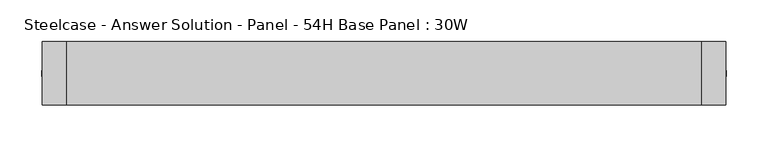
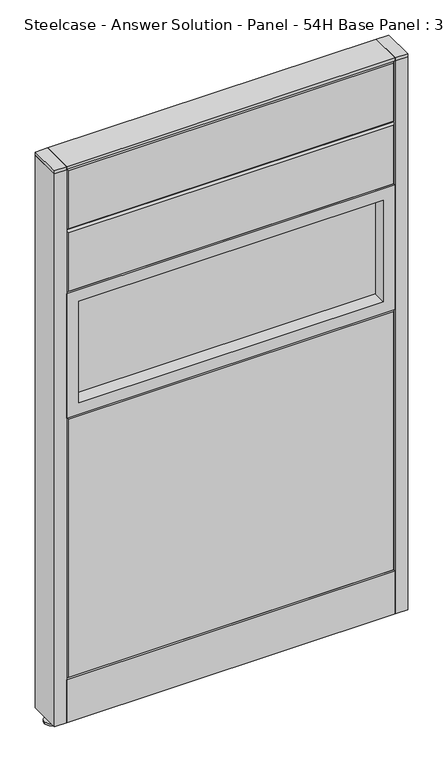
"""IFC4 building model written with IfcOpenShell, lengths in millimetres: furniture geometry, Steelcase - Answer Solution - Panel - 54H Base Panel : 30W."""

import ifcopenshell
import ifcopenshell.guid

model = None  # the IFC model being written
_history = None  # IfcOwnerHistory: only IFC2X3 demands one
_inside = {}  # id of a spatial element -> (the spatial element, [elements in it])
_under = {}  # id of a project, library or spatial element -> (it, [spatial elements below it])
_declared = {}  # id of a project -> (the project, [libraries it declares])
_typed = {}  # id of a type object -> (the type object, [elements of that type])
_made_of = {}  # id of a material, layer set ... -> (it, [elements and type objects made of it])


def new_model(schema):
    """Start an empty IFC model of exactly this schema.

    Asked for "IFC4X3", IfcOpenShell would pick the latest addendum, in which some entities
    have other attributes; the version numbers below select the first issue.
    IFC2X3 requires an IfcOwnerHistory on every rooted entity: one is made here for all.
    """
    global model, _history
    if schema == "IFC4X3":
        model = ifcopenshell.file(schema_version=(4, 3, 0, 0))
    else:
        model = ifcopenshell.file(schema=schema)
    _inside.clear()
    _under.clear()
    _declared.clear()
    _typed.clear()
    _made_of.clear()
    _history = None
    if model.schema == "IFC2X3":
        org = make("IfcOrganization", Name="unknown")
        user = make(
            "IfcPersonAndOrganization",
            ThePerson=make("IfcPerson", FamilyName="unknown"),
            TheOrganization=org,
        )
        app = make(
            "IfcApplication",
            ApplicationDeveloper=org,
            Version="unknown",
            ApplicationFullName="unknown",
            ApplicationIdentifier="unknown",
        )
        _history = make(
            "IfcOwnerHistory",
            OwningUser=user,
            OwningApplication=app,
            ChangeAction="ADDED",
            CreationDate=0,
        )
    return model


def make(cls, **values):
    """One entity of the class cls with the attributes given. An attribute that is None is left unset."""
    return model.create_entity(
        cls, **{name: value for name, value in values.items() if value is not None}
    )


def rooted(cls, **values):
    """An entity with a GlobalId (a new one), such as an element, a storey or a relation."""
    return make(cls, GlobalId=ifcopenshell.guid.new(), OwnerHistory=_history, **values)


def si_unit(unit_type, name, prefix=None):
    """IfcSIUnit, for example si_unit("LENGTHUNIT", "METRE", prefix="MILLI")."""
    return make("IfcSIUnit", UnitType=unit_type, Prefix=prefix, Name=name)


def assignment(units):
    """IfcUnitAssignment: the units of a project."""
    return None if units is None else make("IfcUnitAssignment", Units=units)


def point(xyz):
    """IfcCartesianPoint."""
    return None if xyz is None else make("IfcCartesianPoint", Coordinates=xyz)


def direction(xyz):
    """IfcDirection."""
    return None if xyz is None else make("IfcDirection", DirectionRatios=xyz)


def frame(location, z_axis=None, x_axis=None):
    """IfcAxis2Placement3D, a coordinate frame: its origin and axes. An axis left out is left unset."""
    return make(
        "IfcAxis2Placement3D",
        Location=point(location),
        Axis=direction(z_axis),
        RefDirection=direction(x_axis),
    )


def frame_2d(location, x_axis=None):
    """IfcAxis2Placement2D, a coordinate frame in the plane: its origin and x axis."""
    return make(
        "IfcAxis2Placement2D", Location=point(location), RefDirection=direction(x_axis)
    )


def origin():
    """The frame at (0, 0, 0) with its axes left unset."""
    return frame((0.0, 0.0, 0.0))


def place(relative_to, where):
    """IfcLocalPlacement: puts the frame where relative to a parent placement (None: the world)."""
    return make(
        "IfcLocalPlacement", PlacementRelTo=relative_to, RelativePlacement=where
    )


def context(
    kind, dimensions, precision=None, world=None, true_north=None, identifier=None
):
    """IfcGeometricRepresentationContext, for example the 3D "Model" context."""
    return make(
        "IfcGeometricRepresentationContext",
        ContextIdentifier=identifier,
        ContextType=kind,
        CoordinateSpaceDimension=dimensions,
        Precision=precision,
        WorldCoordinateSystem=world,
        TrueNorth=true_north,
    )


def project(units=None, contexts=None):
    """IfcProject with its units and contexts."""
    return rooted(
        "IfcProject",
        Name="project",
        RepresentationContexts=contexts,
        UnitsInContext=assignment(units),
    )


def spatial(cls, under=None, at=None, **own):
    """A site, building, storey or space (cls), placed at a placement, below another one or the project."""
    s = rooted(cls, ObjectPlacement=at, **own)
    if under is not None:
        _under.setdefault(under.id(), (under, []))[1].append(s)
    return s


def polyline(points):
    """IfcPolyline through the points."""
    return make("IfcPolyline", Points=[point(p) for p in points])


def circle_curve(where, radius):
    """IfcCircle in the frame where."""
    return make("IfcCircle", Position=where, Radius=radius)


def trimmed(basis, trim1, trim2, sense, master):
    """IfcTrimmedCurve: the piece of a basis curve between two trims."""
    return make(
        "IfcTrimmedCurve",
        BasisCurve=basis,
        Trim1=trim1,
        Trim2=trim2,
        SenseAgreement=sense,
        MasterRepresentation=master,
    )


def segment(curve, same_sense, transition):
    """IfcCompositeCurveSegment."""
    return make(
        "IfcCompositeCurveSegment",
        Transition=transition,
        SameSense=same_sense,
        ParentCurve=curve,
    )


def composite_curve(segments, self_intersect=None):
    """IfcCompositeCurve: segments joined end to end."""
    return make("IfcCompositeCurve", Segments=segments, SelfIntersect=self_intersect)


def outline(outer, holes=None, kind="AREA"):
    """IfcArbitraryClosedProfileDef: a profile drawn as a closed curve; with holes, ...WithVoids."""
    if holes is None:
        return make("IfcArbitraryClosedProfileDef", ProfileType=kind, OuterCurve=outer)
    return make(
        "IfcArbitraryProfileDefWithVoids",
        ProfileType=kind,
        OuterCurve=outer,
        InnerCurves=holes,
    )


def extrude(swept, where, along, depth):
    """IfcExtrudedAreaSolid: the profile swept, set in the frame where, extruded along a direction by depth."""
    return make(
        "IfcExtrudedAreaSolid",
        SweptArea=swept,
        Position=where,
        ExtrudedDirection=direction(along),
        Depth=depth,
    )


def faces_of(points, faces, orient=None, outer=None):
    """IfcFace entities. A face is a list of loops; a loop is a list of indices into points, from 0.

    orient and outer hold one flag for each loop. By default every Orientation is true, the
    first loop of a face is its IfcFaceOuterBound and the others are IfcFaceBound.
    """
    made = []
    for i, loops in enumerate(faces):
        bounds = []
        for j, loop in enumerate(loops):
            is_outer = j == 0 if outer is None else outer[i][j]
            bounds.append(
                make(
                    "IfcFaceOuterBound" if is_outer else "IfcFaceBound",
                    Bound=make("IfcPolyLoop", Polygon=[points[k] for k in loop]),
                    Orientation=True if orient is None else orient[i][j],
                )
            )
        made.append(make("IfcFace", Bounds=bounds))
    return made


def faceted_brep(points, faces, orient=None, outer=None, voids=None):
    """IfcFacetedBrep: a solid bounded by flat faces; with voids (closed shells), ...WithVoids."""
    shared = [point(p) for p in points]
    hull = make("IfcClosedShell", CfsFaces=faces_of(shared, faces, orient, outer))
    if voids is None:
        return make("IfcFacetedBrep", Outer=hull)
    return make(
        "IfcFacetedBrepWithVoids",
        Outer=hull,
        Voids=[
            make(cls, CfsFaces=faces_of(shared, fs, o, b)) for cls, fs, o, b in voids
        ],
    )


def shape(context_of_items, identifier, shape_type, items):
    """IfcShapeRepresentation: the items that make up one representation, for example the "Body"."""
    return make(
        "IfcShapeRepresentation",
        ContextOfItems=context_of_items,
        RepresentationIdentifier=identifier,
        RepresentationType=shape_type,
        Items=items,
    )


def source(mapping_origin, context_of_items, identifier, shape_type, items):
    """IfcRepresentationMap: a shape defined once, which mapped items show again and again."""
    return make(
        "IfcRepresentationMap",
        MappingOrigin=mapping_origin,
        MappedRepresentation=shape(context_of_items, identifier, shape_type, items),
    )


def transform(
    local_origin,
    x_axis=None,
    y_axis=None,
    z_axis=None,
    scale=None,
    scale2=None,
    scale3=None,
    uniform=True,
):
    """IfcCartesianTransformationOperator3D, or its non-uniform kind. x_axis, y_axis, z_axis: its Axis1, 2, 3."""
    if uniform:
        return make(
            "IfcCartesianTransformationOperator3D",
            Axis1=direction(x_axis),
            Axis2=direction(y_axis),
            LocalOrigin=point(local_origin),
            Scale=scale,
            Axis3=direction(z_axis),
        )
    return make(
        "IfcCartesianTransformationOperator3DnonUniform",
        Axis1=direction(x_axis),
        Axis2=direction(y_axis),
        LocalOrigin=point(local_origin),
        Scale=scale,
        Axis3=direction(z_axis),
        Scale2=scale2,
        Scale3=scale3,
    )


def mapped(mapping_source, mapping_target):
    """IfcMappedItem: shows the shape of a source again, moved by a transform."""
    return make(
        "IfcMappedItem", MappingSource=mapping_source, MappingTarget=mapping_target
    )


def made_of(thing, what):
    """Note that an element or type object is made of a material, layer set ...; save() writes the relation."""
    if what is not None:
        _made_of.setdefault(what.id(), (what, []))[1].append(thing)
    return thing


def element(
    cls,
    number,
    at=None,
    inside=None,
    cuts=None,
    type_object=None,
    material=None,
    context=None,
    identifier="Body",
    shape_type=None,
    held_by="IfcProductDefinitionShape",
    body=None,
    shapes=None,
    **own,
):
    """One element of the class cls, such as IfcWall. Its Tag is "e" and its number.

    at: its placement. inside: the storey or other place that contains it. cuts: it is an
    opening in that element (IfcRelVoidsElement). A single representation is given by context,
    identifier, shape_type and body (its items); several are given by shapes. held_by: the class
    of the entity that holds the representations. save() writes the other relations.
    """
    e = rooted(cls, Tag="e%d" % number, ObjectPlacement=at, **own)
    if body is not None:
        shapes = [shape(context, identifier, shape_type, body)]
    if shapes is not None:
        e.Representation = make(held_by, Representations=shapes)
    if inside is not None:
        _inside.setdefault(inside.id(), (inside, []))[1].append(e)
    if cuts is not None:
        rooted(
            "IfcRelVoidsElement", RelatingBuildingElement=cuts, RelatedOpeningElement=e
        )
    if type_object is not None:
        _typed.setdefault(type_object.id(), (type_object, []))[1].append(e)
    return made_of(e, material)


def aggregate(whole, parts):
    """IfcRelAggregates: a whole, such as a stair, and the parts it consists of."""
    return rooted("IfcRelAggregates", RelatingObject=whole, RelatedObjects=parts)


def save(model, path):
    """Write the relations noted so far, then the file.

    IfcRelAggregates (storeys below a building ...), IfcRelContainedInSpatialStructure (elements
    in a storey), IfcRelDefinesByType, IfcRelAssociatesMaterial and IfcRelDeclares: one each for
    every whole, place, type object, material and project.
    """
    for whole, parts in _under.values():
        aggregate(whole, parts)
    for where, things in _inside.values():
        rooted(
            "IfcRelContainedInSpatialStructure",
            RelatedElements=things,
            RelatingStructure=where,
        )
    for kind, things in _typed.values():
        rooted("IfcRelDefinesByType", RelatedObjects=things, RelatingType=kind)
    for what, things in _made_of.values():
        rooted("IfcRelAssociatesMaterial", RelatedObjects=things, RelatingMaterial=what)
    for by, libraries in _declared.values():
        rooted("IfcRelDeclares", RelatingContext=by, RelatedDefinitions=libraries)
    model.write(path)


def steelcase_answer_solution_panel_54h_base_panel_30w_c52ab2a7(model_context):
    return source(origin(), model_context, "Body", "SolidModel", [
        extrude(outline(composite_curve([segment(trimmed(circle_curve(frame_2d((395.224, 0.0320214)), 5.08), [point((400.304, 0.0320214))], [point((390.144, 0.0320214))], False, "CARTESIAN"), True, "CONTINUOUS"), segment(trimmed(circle_curve(frame_2d((395.224, 0.0320214)), 5.08), [point((390.144, 0.0320214))], [point((400.304, 0.0320214))], False, "CARTESIAN"), True, "CONTINUOUS")], self_intersect=False)), frame((0.0, 0.0, 5.0799671), z_axis=(0.0, 0.0, 1.0), x_axis=(1.0, 0.0, 0.0)), (0.0, 0.0, 1.0), 10.414),
        extrude(outline(composite_curve([segment(trimmed(circle_curve(frame_2d((395.224, 0.0320214)), 15.24), [point((410.464, 0.0320214))], [point((379.984, 0.0320214))], False, "CARTESIAN"), True, "CONTINUOUS"), segment(trimmed(circle_curve(frame_2d((395.224, 0.0320214)), 15.24), [point((379.984, 0.0320214))], [point((410.464, 0.0320214))], False, "CARTESIAN"), True, "CONTINUOUS")], self_intersect=False)), frame((0.0, 0.0, -3.29e-05), z_axis=(0.0, 0.0, 1.0), x_axis=(1.0, 0.0, 0.0)), (0.0, 0.0, 1.0), 5.08),
        extrude(outline(polyline([(409.575, 38.1320408), (409.575, -38.0679592), (381.0, -38.0679592), (381.0, 38.1320408), (409.575, 38.1320408)])), frame((0.0, 0.0, 1370.6348), z_axis=(0.0, 0.0, 1.0), x_axis=(1.0, 0.0, 0.0)), (0.0, 0.0, 1.0), 7.3151671),
        extrude(outline(polyline([(409.575, 38.1320408), (409.575, -38.0679592), (381.0, -38.0679592), (381.0, 38.1320408), (409.575, 38.1320408)])), frame((0.0, 0.0, 15.4939671), z_axis=(0.0, 0.0, 1.0), x_axis=(1.0, 0.0, 0.0)), (0.0, 0.0, 1.0), 1355.1408329),
        extrude(outline(composite_curve([segment(trimmed(circle_curve(frame_2d((-395.224, 0.0320214)), 5.08), [point((-400.304, 0.0320214))], [point((-390.144, 0.0320214))], False, "CARTESIAN"), True, "CONTINUOUS"), segment(trimmed(circle_curve(frame_2d((-395.224, 0.0320214)), 5.08), [point((-390.144, 0.0320214))], [point((-400.304, 0.0320214))], False, "CARTESIAN"), True, "CONTINUOUS")], self_intersect=False)), frame((0.0, 0.0, 5.0799671), z_axis=(0.0, 0.0, 1.0), x_axis=(1.0, 0.0, 0.0)), (0.0, 0.0, 1.0), 10.414),
        extrude(outline(composite_curve([segment(trimmed(circle_curve(frame_2d((-395.224, 0.0320214)), 15.24), [point((-410.464, 0.0320214))], [point((-379.984, 0.0320214))], False, "CARTESIAN"), True, "CONTINUOUS"), segment(trimmed(circle_curve(frame_2d((-395.224, 0.0320214)), 15.24), [point((-379.984, 0.0320214))], [point((-410.464, 0.0320214))], False, "CARTESIAN"), True, "CONTINUOUS")], self_intersect=False)), frame((0.0, 0.0, -3.29e-05), z_axis=(0.0, 0.0, 1.0), x_axis=(1.0, 0.0, 0.0)), (0.0, 0.0, 1.0), 5.08),
        extrude(outline(polyline([(-409.575, 38.1320408), (-381.0, 38.1320408), (-381.0, -38.0679592), (-409.575, -38.0679592), (-409.575, 38.1320408)])), frame((0.0, 0.0, 1370.6348), z_axis=(0.0, 0.0, 1.0), x_axis=(1.0, 0.0, 0.0)), (0.0, 0.0, 1.0), 7.3151671),
        extrude(outline(polyline([(-409.575, 38.1320408), (-381.0, 38.1320408), (-381.0, -38.0679592), (-409.575, -38.0679592), (-409.575, 38.1320408)])), frame((0.0, 0.0, 15.4939671), z_axis=(0.0, 0.0, 1.0), x_axis=(1.0, 0.0, 0.0)), (0.0, 0.0, 1.0), 1355.1408329),
        extrude(outline(polyline([(-353.06, 6.346049), (353.06, 6.346049), (353.06, -6.353951), (-353.06, -6.353951), (-353.06, 6.346049)])), frame((0.0, 0.0, 789.94), z_axis=(0.0, 0.0, 1.0), x_axis=(1.0, 0.0, 0.0)), (0.0, 0.0, 1.0), 248.92),
        extrude(outline(polyline([(1066.8, -381.0), (762.0, -381.0), (762.0, 381.0), (1066.8, 381.0), (1066.8, -381.0)]), holes=[polyline([(1038.86, -353.06), (1038.86, 353.06), (789.94, 353.06), (789.94, -353.06), (1038.86, -353.06)])]), frame((0.0, -38.103951, 0.0), z_axis=(0.0, 1.0, 0.0), x_axis=(0.0, 0.0, 1.0)), (0.0, 0.0, 1.0), 76.2),
        faceted_brep([(-376.174, 38.1635011, 1214.374), (376.174, 38.1635011, 1214.374), (376.174, 38.1635011, 1071.626), (-376.174, 38.1635011, 1071.626), (-381.0, 33.3375011, 1219.2), (-381.0, 33.3375011, 1066.8), (381.0, 33.3375011, 1066.8), (381.0, 33.3375011, 1219.2)], [[[0, 1, 2, 3]], [[4, 5, 6, 7]], [[4, 7, 1, 0]], [[7, 6, 2, 1]], [[6, 5, 3, 2]], [[5, 4, 0, 3]]]),
        faceted_brep([(-376.174, 38.1635011, 1366.774), (376.174, 38.1635011, 1366.774), (376.174, 38.1635011, 1224.026), (-376.174, 38.1635011, 1224.026), (-381.0, 33.3375011, 1371.6), (-381.0, 33.3375011, 1219.2), (381.0, 33.3375011, 1219.2), (381.0, 33.3375011, 1371.6)], [[[0, 1, 2, 3]], [[4, 5, 6, 7]], [[4, 7, 1, 0]], [[7, 6, 2, 1]], [[6, 5, 3, 2]], [[5, 4, 0, 3]]]),
        faceted_brep([(-376.174, 38.1635011, 757.174), (376.174, 38.1635011, 757.174), (376.174, 38.1635011, 125.476), (-376.174, 38.1635011, 125.476), (-381.0, 33.3375011, 762.0), (-381.0, 33.3375011, 120.65), (381.0, 33.3375011, 120.65), (381.0, 33.3375011, 762.0)], [[[0, 1, 2, 3]], [[4, 5, 6, 7]], [[4, 7, 1, 0]], [[7, 6, 2, 1]], [[6, 5, 3, 2]], [[5, 4, 0, 3]]]),
        extrude(outline(polyline([(353.06, -6.346049), (-353.06, -6.346049), (-353.06, 6.353951), (353.06, 6.353951), (353.06, -6.346049)])), frame((0.0, 0.0, 789.94), z_axis=(0.0, 0.0, 1.0), x_axis=(1.0, 0.0, 0.0)), (0.0, 0.0, 1.0), 248.92),
        extrude(outline(polyline([(1066.8, 381.0), (1066.8, -381.0), (762.0, -381.0), (762.0, 381.0), (1066.8, 381.0)]), holes=[polyline([(1038.86, 353.06), (789.94, 353.06), (789.94, -353.06), (1038.86, -353.06), (1038.86, 353.06)])]), frame((0.0, -38.096049, 0.0), z_axis=(0.0, 1.0, 0.0), x_axis=(0.0, 0.0, 1.0)), (0.0, 0.0, 1.0), 76.2),
        faceted_brep([(376.174, -38.1635011, 1214.374), (-376.174, -38.1635011, 1214.374), (-376.174, -38.1635011, 1071.626), (376.174, -38.1635011, 1071.626), (381.0, -33.3375011, 1219.2), (381.0, -33.3375011, 1066.8), (-381.0, -33.3375011, 1066.8), (-381.0, -33.3375011, 1219.2)], [[[0, 1, 2, 3]], [[4, 5, 6, 7]], [[4, 7, 1, 0]], [[7, 6, 2, 1]], [[6, 5, 3, 2]], [[5, 4, 0, 3]]]),
        faceted_brep([(376.174, -38.1635011, 1366.774), (-376.174, -38.1635011, 1366.774), (-376.174, -38.1635011, 1224.026), (376.174, -38.1635011, 1224.026), (381.0, -33.3375011, 1371.6), (381.0, -33.3375011, 1219.2), (-381.0, -33.3375011, 1219.2), (-381.0, -33.3375011, 1371.6)], [[[0, 1, 2, 3]], [[4, 5, 6, 7]], [[4, 7, 1, 0]], [[7, 6, 2, 1]], [[6, 5, 3, 2]], [[5, 4, 0, 3]]]),
        faceted_brep([(376.174, -38.1635011, 757.174), (-376.174, -38.1635011, 757.174), (-376.174, -38.1635011, 125.476), (376.174, -38.1635011, 125.476), (381.0, -33.3375011, 762.0), (381.0, -33.3375011, 120.65), (-381.0, -33.3375011, 120.65), (-381.0, -33.3375011, 762.0)], [[[0, 1, 2, 3]], [[4, 5, 6, 7]], [[4, 7, 1, 0]], [[7, 6, 2, 1]], [[6, 5, 3, 2]], [[5, 4, 0, 3]]]),
        extrude(outline(polyline([(381.0, 38.1000194), (381.0, -38.1000194), (-381.0, -38.1000194), (-381.0, 38.1000194), (381.0, 38.1000194)])), frame((0.0, 0.0, 1371.6), z_axis=(0.0, 0.0, 1.0), x_axis=(1.0, 0.0, 0.0)), (0.0, 0.0, 1.0), 6.35),
        extrude(outline(polyline([(25.4000011, 119.8575157), (25.4000011, 120.65), (38.1000194, 120.65), (38.1000194, 15.494), (37.3075215, 15.494), (37.3075215, 119.8575157), (25.4000011, 119.8575157)])), frame((-381.0, 0.0, 0.0), z_axis=(1.0, 0.0, 0.0), x_axis=(0.0, 1.0, 0.0)), (0.0, 0.0, 1.0), 762.0),
        extrude(outline(polyline([(-25.4000011, 119.8575157), (-37.3075215, 119.8575157), (-37.3075215, 15.494), (-38.1000194, 15.494), (-38.1000194, 120.65), (-25.4000011, 120.65), (-25.4000011, 119.8575157)])), frame((-381.0, 0.0, 0.0), z_axis=(1.0, 0.0, 0.0), x_axis=(0.0, 1.0, 0.0)), (0.0, 0.0, 1.0), 762.0),
    ])


if __name__ == "__main__":
    model = new_model("IFC4")
    model_context = context("Model", 3, world=origin())
    ifc_project = project(units=[si_unit("LENGTHUNIT", "METRE", prefix="MILLI")], contexts=[model_context])
    site = spatial("IfcSite", under=ifc_project)
    building = spatial("IfcBuilding", under=site)
    placement = place(None, origin())
    steelcase_answer_solution_panel_54h_base_panel_30w_shape = steelcase_answer_solution_panel_54h_base_panel_30w_c52ab2a7(model_context)
    element("IfcFurniture", 1, ObjectType="Steelcase - Answer Solution - Panel - 54H Base Panel : 30W", at=placement, inside=building, context=model_context, shape_type="MappedRepresentation", body=[
        mapped(steelcase_answer_solution_panel_54h_base_panel_30w_shape, transform((0.0, 0.0, 0.0), x_axis=(1.0, 0.0, 0.0), y_axis=(0.0, 1.0, 0.0), z_axis=(0.0, 0.0, 1.0))),
    ])
    save(model, "model.ifc")
